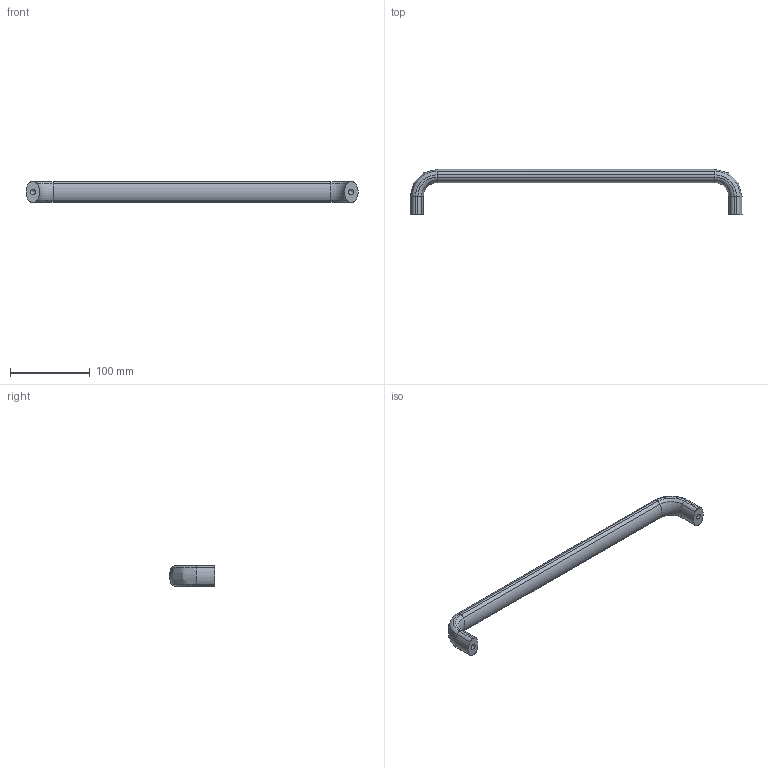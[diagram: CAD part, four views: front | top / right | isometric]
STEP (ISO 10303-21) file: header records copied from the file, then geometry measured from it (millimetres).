
FILE_DESCRIPTION( ( 'STEP AP203' ), '1' );
FILE_NAME( 'C:/Temp/Ganter_Step_05_03_2020/data/1_2/gn_565/Cabinet ''''U'''' handle GN 565-26-400-BL.stp', '2020-03-05T10:09:05', ( 'License CC BY-ND 4.0' ), ( 'CADENAS' ), ' ', 'PARTsolutions', ' ' );
FILE_SCHEMA( ( 'CONFIG_CONTROL_DESIGN' ) );
Length unit declared in the file: millimetre
Products named in the file (1): _Cabinet ''U'' handle GN 565-26-400-BL
Bounding box: 416.88 x 56.99 x 25.99 mm (x, y, z)
Volume: 168454.1 mm3; surface area: 34317.3 mm2
Topology: 1 solids, 1 shells, 52 faces, 130 edges, 80 vertices
Faces by surface type: cylinder 26, torus 14, plane 8, cone 2, bspline 2
Full cylindrical faces by diameter (mm): 6.647 x2
Entity records: 1648 total; most frequent: CARTESIAN_POINT 341, DIRECTION 302, ORIENTED_EDGE 248, AXIS2_PLACEMENT_3D 139, EDGE_CURVE 124, CIRCLE 88, VERTEX_POINT 80, EDGE_LOOP 56
